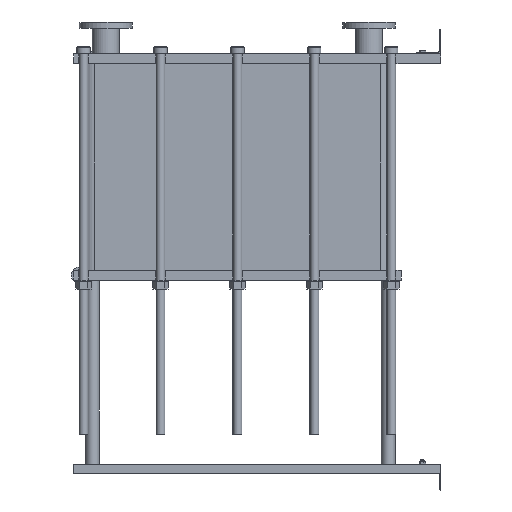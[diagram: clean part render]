
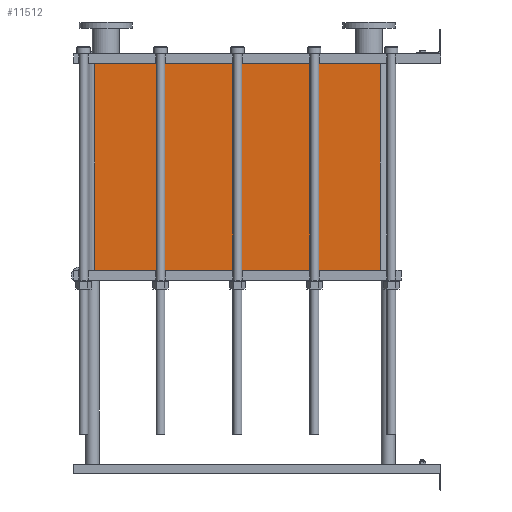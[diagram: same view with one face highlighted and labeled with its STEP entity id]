
A CAD part, left-side view. The second image highlights one B-rep face of the part: STEP entity #11512.
In plain terms, the highlighted planar face has unit normal (-1, 0, 0).
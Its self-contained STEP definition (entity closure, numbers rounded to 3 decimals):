
#1129=LINE('',#23232,#2102);
#1130=LINE('',#23236,#2103);
#1131=LINE('',#23238,#2104);
#1132=LINE('',#23239,#2105);
#2102=VECTOR('',#15887,10.);
#2103=VECTOR('',#15892,10.);
#2104=VECTOR('',#15893,10.);
#2105=VECTOR('',#15894,10.);
#3267=FACE_OUTER_BOUND('',#4093,.T.);
#4093=EDGE_LOOP('',(#10103,#10104,#10105,#10106));
#5642=VERTEX_POINT('',#23229);
#5643=VERTEX_POINT('',#23231);
#5644=VERTEX_POINT('',#23235);
#5645=VERTEX_POINT('',#23237);
#7159=EDGE_CURVE('',#5643,#5642,#1129,.T.);
#7161=EDGE_CURVE('',#5642,#5644,#1130,.T.);
#7162=EDGE_CURVE('',#5645,#5644,#1131,.T.);
#7163=EDGE_CURVE('',#5645,#5643,#1132,.T.);
#10103=ORIENTED_EDGE('',*,*,#7161,.T.);
#10104=ORIENTED_EDGE('',*,*,#7162,.F.);
#10105=ORIENTED_EDGE('',*,*,#7163,.T.);
#10106=ORIENTED_EDGE('',*,*,#7159,.T.);
#10857=PLANE('',#12751);
#11512=ADVANCED_FACE('',(#3267),#10857,.T.);
#12751=AXIS2_PLACEMENT_3D('',#23234,#15890,#15891);
#15887=DIRECTION('',(0.,0.,-1.));
#15890=DIRECTION('center_axis',(-1.,0.,0.));
#15891=DIRECTION('ref_axis',(0.,1.,0.));
#15892=DIRECTION('',(0.,-1.,0.));
#15893=DIRECTION('',(0.,0.,-1.));
#15894=DIRECTION('',(0.,1.,0.));
#23229=CARTESIAN_POINT('',(-200.,1414.,-845.25));
#23231=CARTESIAN_POINT('',(-200.,1414.,0.));
#23232=CARTESIAN_POINT('',(-200.,1414.,0.));
#23234=CARTESIAN_POINT('Origin',(-200.,248.,0.));
#23235=CARTESIAN_POINT('',(-200.,248.,-845.25));
#23236=CARTESIAN_POINT('',(-200.,539.5,-845.25));
#23237=CARTESIAN_POINT('',(-200.,248.,0.));
#23238=CARTESIAN_POINT('',(-200.,248.,0.));
#23239=CARTESIAN_POINT('',(-200.,248.,0.));
